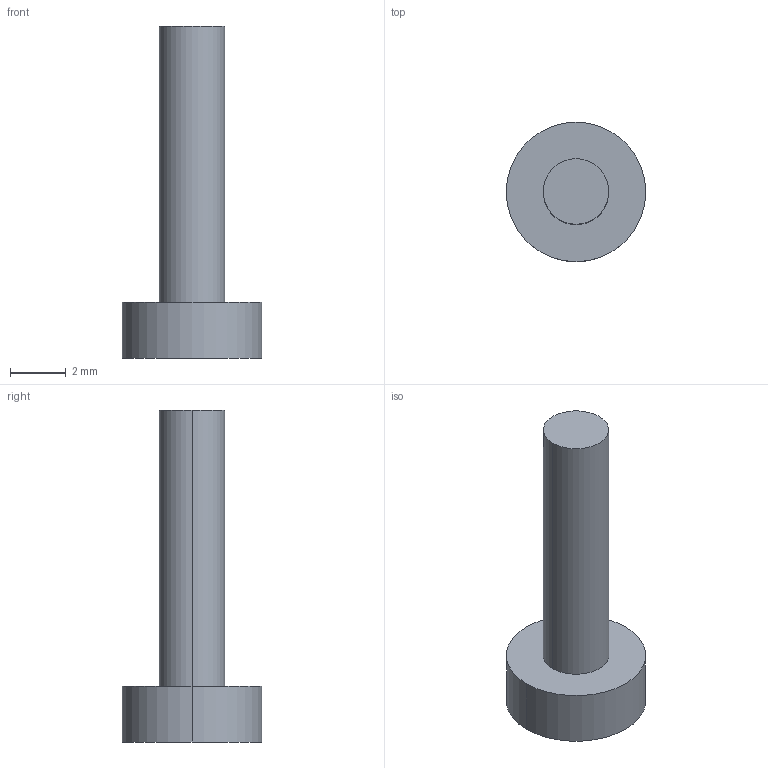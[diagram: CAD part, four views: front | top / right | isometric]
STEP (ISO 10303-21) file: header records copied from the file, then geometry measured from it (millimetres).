
FILE_DESCRIPTION (( 'STEP AP214' ), '1' );
FILE_NAME ('Pin_for_tijera.STEP', '2025-06-15T00:41:25', ( '' ), ( '' ), 'SwSTEP 2.0', 'SolidWorks 2024', '' );
FILE_SCHEMA (( 'AUTOMOTIVE_DESIGN' ));
Length unit declared in the file: millimetre
Products named in the file (1): Pin_for_tijera
Bounding box: 5 x 5 x 11.9 mm (x, y, z)
Volume: 82.2 mm3; surface area: 152.4 mm2
Topology: 2 solids, 2 shells, 8 faces, 12 edges, 8 vertices
Faces by surface type: cylinder 4, plane 4
Entity records: 216 total; most frequent: DIRECTION 38, CARTESIAN_POINT 29, ORIENTED_EDGE 24, AXIS2_PLACEMENT_3D 17, EDGE_CURVE 12, ADVANCED_FACE 8, VERTEX_POINT 8, CIRCLE 8
